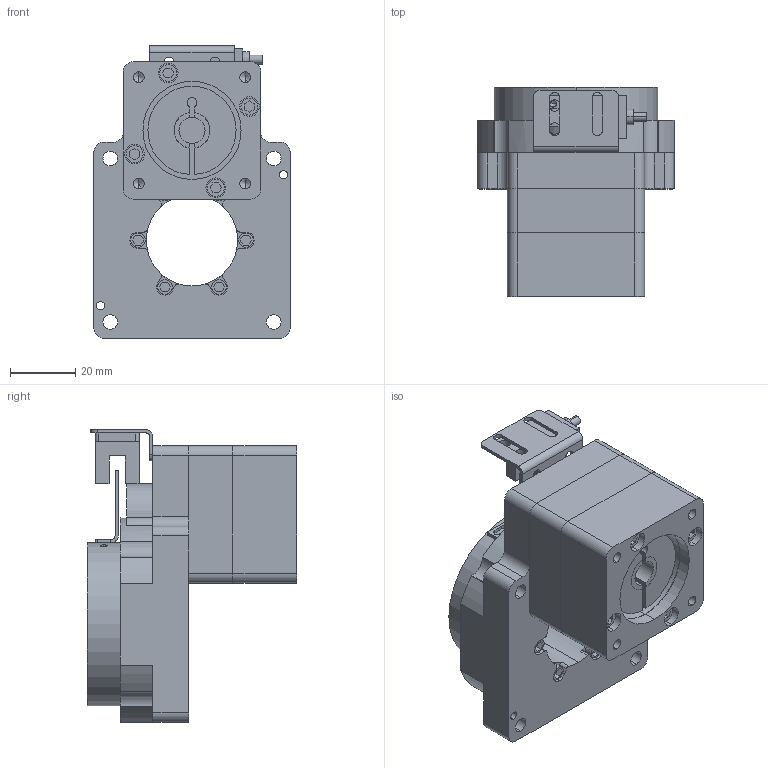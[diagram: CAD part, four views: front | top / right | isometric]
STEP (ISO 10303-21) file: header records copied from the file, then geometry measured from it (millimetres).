
FILE_DESCRIPTION(('Open CASCADE Model'),'2;1');
FILE_NAME('Open CASCADE Shape Model','2026-10-11T02:54:13',('Author'),( 'Open CASCADE'),'Open CASCADE STEP processor 7.8','Open CASCADE 7.8' ,'Unknown');
FILE_SCHEMA(('AUTOMOTIVE_DESIGN { 1 0 10303 214 1 1 1 1 }'));
Length unit declared in the file: millimetre
Products named in the file (3): NT60-05(配伺服100W 输入8-30 30-5 4-M4-46); NT60-05(配伺服100W 输入8-30 30-5 4-M4-46)-01; NT60-05(配伺服100W 输入8-30 30-5 4-M4-46)-02
Assembly tree (2 placements, depth 2):
  NT60-05(配伺服100W 输入8-30 30-5 4-M4-46)
    NT60-05(配伺服100W 输入8-30 30-5 4-M4-46)-01
    NT60-05(配伺服100W 输入8-30 30-5 4-M4-46)-02
Bounding box: 60 x 64 x 89.5 mm (x, y, z)
Volume: 131980.4 mm3; surface area: 42141.2 mm2
Topology: 6 solids, 12 shells, 1103 faces, 2989 edges, 1958 vertices
Faces by surface type: plane 844, cylinder 219, cone 40
Entity records: 72899 total; most frequent: CARTESIAN_POINT 15577, DIRECTION 10020, LINE 6769, VECTOR 6769, ORIENTED_EDGE 5898, PCURVE 5898, DEFINITIONAL_REPRESENTATION 5898, EDGE_CURVE 2949
